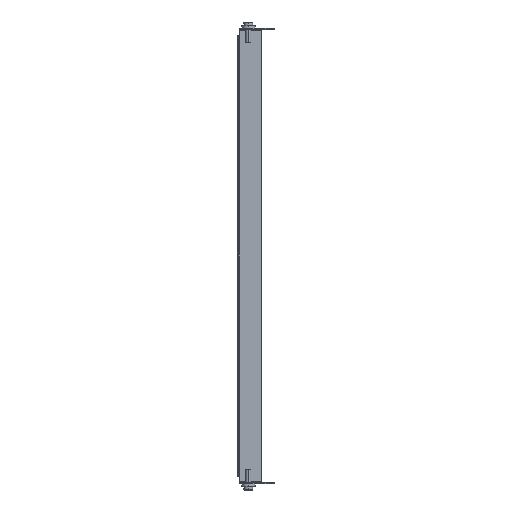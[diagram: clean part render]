
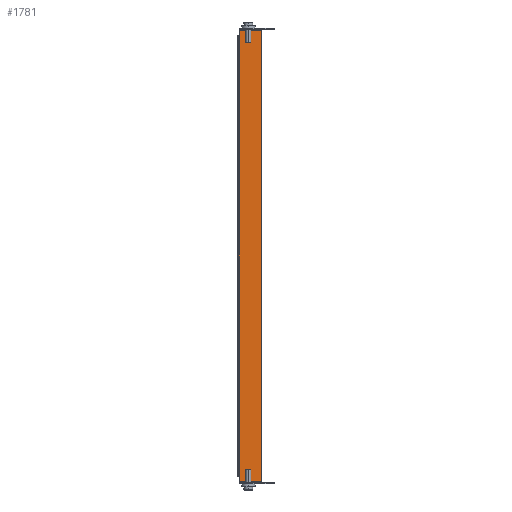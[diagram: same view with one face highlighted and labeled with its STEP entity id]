
A CAD part, left-side view. The second image highlights one B-rep face of the part: STEP entity #1781.
In plain terms, the highlighted planar face has unit normal (-1, 0, 0) as drawn and (0, 0, 1) by its records, which use the part's own axes.
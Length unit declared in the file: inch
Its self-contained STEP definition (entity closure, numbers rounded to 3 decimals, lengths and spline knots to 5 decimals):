
#338=DIRECTION('',(-1.,0.,0.));
#339=VECTOR('',#338,20.619);
#340=CARTESIAN_POINT('',(10.3095,-0.51106,0.));
#341=LINE('',#340,#339);
#350=DIRECTION('',(1.,0.,0.));
#351=VECTOR('',#350,0.2645);
#352=CARTESIAN_POINT('',(-10.3095,0.51106,0.));
#353=LINE('',#352,#351);
#368=DIRECTION('',(1.,0.,0.));
#369=VECTOR('',#368,20.09);
#370=CARTESIAN_POINT('',(-10.045,0.51106,0.));
#371=LINE('',#370,#369);
#462=DIRECTION('',(1.,0.,0.));
#463=VECTOR('',#462,0.2645);
#464=CARTESIAN_POINT('',(10.045,0.51106,0.));
#465=LINE('',#464,#463);
#484=DIRECTION('',(0.,-1.,0.));
#485=VECTOR('',#484,1.02211);
#486=CARTESIAN_POINT('',(10.3095,0.51106,0.));
#487=LINE('',#486,#485);
#932=DIRECTION('',(0.,1.,0.));
#933=VECTOR('',#932,1.02211);
#934=CARTESIAN_POINT('',(-10.3095,-0.51106,0.));
#935=LINE('',#934,#933);
#1126=CARTESIAN_POINT('',(-10.3095,-0.51106,0.));
#1128=VERTEX_POINT('',#1126);
#1192=CARTESIAN_POINT('',(10.045,0.51106,0.));
#1193=CARTESIAN_POINT('',(10.3095,0.51106,0.));
#1194=VERTEX_POINT('',#1192);
#1195=VERTEX_POINT('',#1193);
#1314=CARTESIAN_POINT('',(10.3095,-0.51106,0.));
#1315=VERTEX_POINT('',#1314);
#1368=CARTESIAN_POINT('',(-10.045,0.51106,0.));
#1369=VERTEX_POINT('',#1368);
#1378=CARTESIAN_POINT('',(-10.3095,0.51106,0.));
#1379=VERTEX_POINT('',#1378);
#1763=CARTESIAN_POINT('',(0.,0.,0.));
#1764=DIRECTION('',(0.,0.,1.));
#1765=DIRECTION('',(1.,0.,0.));
#1766=AXIS2_PLACEMENT_3D('',#1763,#1764,#1765);
#1767=PLANE('',#1766);
#1769=ORIENTED_EDGE('',*,*,#1768,.T.);
#1771=ORIENTED_EDGE('',*,*,#1770,.T.);
#1773=ORIENTED_EDGE('',*,*,#1772,.T.);
#1775=ORIENTED_EDGE('',*,*,#1774,.T.);
#1776=ORIENTED_EDGE('',*,*,#1753,.T.);
#1778=ORIENTED_EDGE('',*,*,#1777,.T.);
#1779=EDGE_LOOP('',(#1769,#1771,#1773,#1775,#1776,#1778));
#1780=FACE_OUTER_BOUND('',#1779,.F.);
#1753=EDGE_CURVE('',#1315,#1128,#341,.T.);
#1768=EDGE_CURVE('',#1379,#1369,#353,.T.);
#1770=EDGE_CURVE('',#1369,#1194,#371,.T.);
#1772=EDGE_CURVE('',#1194,#1195,#465,.T.);
#1774=EDGE_CURVE('',#1195,#1315,#487,.T.);
#1777=EDGE_CURVE('',#1128,#1379,#935,.T.);
#1781=ADVANCED_FACE('',(#1780),#1767,.T.);
